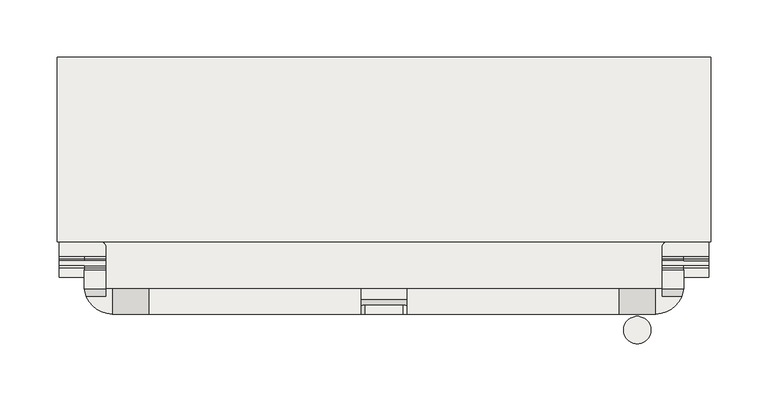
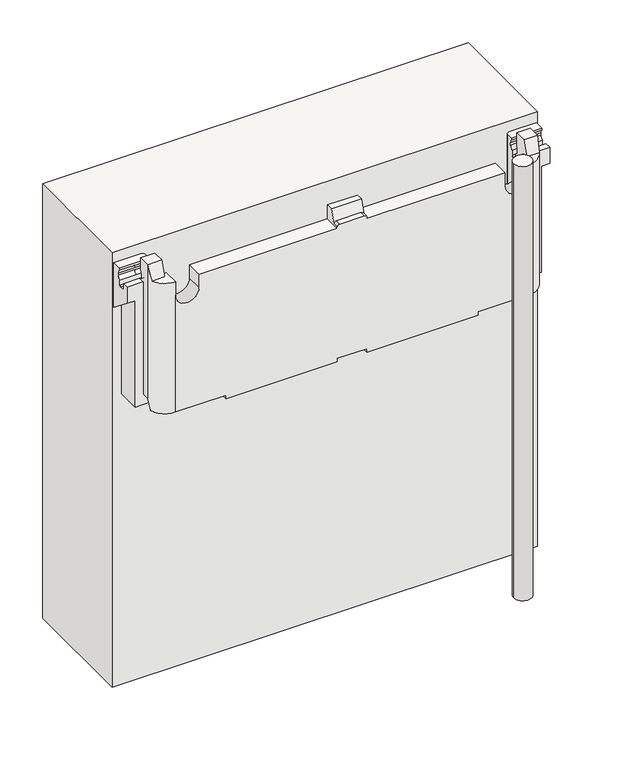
"""IFC4 building model written with IfcOpenShell, lengths in millimetres: covering geometry, panel VP Modulo prova ultima texture : panel VP Modulo prova ultima texture."""

from ifc_helpers import new_model, si_unit, point, frame, frame_2d, origin, origin_with_axes, place, context, project, spatial, polyline, circle_curve, ellipse_curve, trimmed, segment, composite_curve, outline, extrude, source, transform, mapped, element, save
from ifc_brep_helpers import plane_surface, cylinder_surface, revolved_surface, advanced_brep


def covering_7eb55cab(model_context):
    return source(origin(), model_context, "Body", "SolidModel", [
        advanced_brep(
        [(-20.0, 40.503817, 617.5220564), (-20.0, 49.5015434, 617.5220564), (-20.0, 49.5015434, 597.5249996), (-20.0, 27.5015432, 597.5249996), (-20.0, 27.5015432, 599.5249996), (-20.0, 34.5021229, 599.5249996), (20.0, 49.5015434, 617.5220564), (20.0, 40.503817, 617.5220564), (20.0, 34.5021229, 599.5249996), (20.0, 27.5015432, 599.5249996), (20.0, 27.5015432, 597.5249996), (20.0, 49.5015434, 597.5249996), (-17.0, 35.5025688, 602.5249996), (17.0, 35.5025688, 602.5249996), (17.0, 27.5015432, 602.5249996), (-17.0, 27.5015432, 602.5249996), (-262.4808119, 49.5015434, 617.5198754), (-262.4808119, 65.772467, 617.5198754), (-262.4808119, 65.772467, 599.5768312), (-262.4808119, 63.7739273, 594.6813202), (-262.4808119, 63.7739273, 591.6813202), (-262.4808119, 67.7745502, 586.9851203), (-262.4808119, 59.5, 586.9851203), (-262.4808119, 59.5, 427.5207128), (-262.4808119, 49.5015434, 427.5207128), (262.4808119, 67.7745502, 586.9851203), (262.4808119, 63.7739273, 591.6813202), (262.4808119, 63.7739273, 594.6813202), (262.4808119, 65.772467, 599.5768312), (262.4808119, 65.772467, 617.5198754), (262.4808119, 49.5015434, 617.5198754), (262.4808119, 49.5015434, 427.5207128), (262.4808119, 59.5, 427.5207128), (262.4808119, 59.5, 586.9851203), (205.7808119, 27.5015432, 597.5249996), (205.7808119, 49.5015434, 597.5249996), (243.7808119, 42.6167555, 597.5249996), (243.7808119, 49.5015434, 597.5249996), (237.7808119, 49.5015434, 597.5249996), (237.7808119, 27.5015432, 597.5249996), (260.6550436, 42.6167555, 597.5249996), (-237.7808119, 27.5015432, 597.5249996), (-237.7808119, 49.5015434, 597.5249996), (-243.7808119, 49.5015434, 597.5249996), (-243.7808119, 42.6167555, 597.5249996), (-260.6550436, 42.6167555, 597.5249996), (-205.7808119, 49.5015434, 597.5249996), (-205.7808119, 27.5015432, 597.5249996), (-262.4808119, 109.8415131, 434.5213892), (262.4808119, 109.8415131, 434.5213892), (262.4808119, 141.2113001, 462.1618818), (-262.4808119, 141.2113001, 462.1618818), (-262.4808119, 147.3447094, 468.6241094), (262.4808119, 147.3447094, 468.6241094), (262.4808119, 184.4941844, 515.5067645), (-262.4808119, 184.4941844, 515.5067645), (262.4808119, 184.4941844, 542.5056194), (-262.4808119, 184.4941844, 542.5056194), (284.4808119, 184.4914281, 542.5056194), (284.4808119, 202.488872, 542.5056194), (-284.4808119, 202.488872, 542.5056194), (-284.4808119, 184.4914281, 542.5056194), (-284.4808119, 202.488872, 502.7923442), (284.4808119, 202.488872, 502.7923442), (262.4808119, 193.4423608, 461.4138134), (-262.4808119, 193.4423608, 461.4138134), (-284.4808119, 193.4423608, 461.4138134), (284.4808119, 193.4423608, 461.4138134), (262.4808119, 190.281945, 460.2861233), (-262.4808119, 190.281945, 460.2861233), (284.4808119, 190.281945, 460.2861233), (284.4808119, 59.5, 563.9167777), (273.4808119, 59.5, 563.9167777), (273.4808119, 180.2456216, 468.2388324), (262.4808119, 180.2456216, 468.2388324), (-262.4808119, 180.2456216, 468.2388324), (-273.4808119, 180.2456216, 468.2388324), (-273.4808119, 59.5, 563.9167777), (-284.4808119, 59.5, 563.9167777), (-284.4808119, 190.281945, 460.2861233), (262.4808119, 174.5899002, 467.5837505), (-262.4808119, 174.5899002, 467.5837505), (273.4808119, 174.5899002, 467.5837505), (273.4808119, 160.5878776, 449.9132262), (-273.4808119, 160.5878776, 449.9132262), (-273.4808119, 174.5899002, 467.5837505), (-273.4808119, 118.1414154, 412.5128727), (273.4808119, 118.1414154, 412.5128727), (237.7808119, 118.1414154, 412.5128727), (197.7808119, 118.1414154, 412.5128727), (20.0, 118.1414154, 412.5128727), (-20.0, 118.1414154, 412.5128727), (-197.7808119, 118.1414154, 412.5128727), (-237.7808119, 118.1414154, 412.5128727), (-273.4808119, 59.5, 412.5250013), (-237.7808119, 78.1414154, 412.5250013), (-197.7808119, 78.1414154, 412.5250013), (-20.0, 78.1414154, 412.5250013), (20.0, 78.1414154, 412.5250013), (197.7808119, 78.1414154, 412.5250013), (237.7808119, 78.1414154, 412.5250013), (273.4808119, 59.5, 412.5250013), (252.4808119, 59.5, 412.5250013), (252.4808119, 44.6291413, 412.5250013), (261.4118126, 44.6291413, 412.5250013), (237.7808119, 27.5015432, 412.5250013), (169.4808119, 27.5015432, 412.5250013), (169.4808119, 67.5015432, 412.5250013), (20.0, 67.5015432, 412.5250013), (20.0, 27.5015432, 412.5250013), (-20.0, 27.5015432, 412.5250013), (-20.0, 67.5015432, 412.5250013), (-169.4808119, 67.5015432, 412.5250013), (-169.4808119, 27.5015432, 412.5250013), (-237.7808119, 27.5015432, 412.5250013), (-261.4118126, 44.6291413, 412.5250013), (-252.4808119, 44.6291413, 412.5250013), (-252.4808119, 59.5, 412.5250013), (-205.7808119, 27.5015432, 578.501469), (-237.7808119, 27.5015432, 578.501469), (-169.4808119, 27.5015432, 407.5154158), (-20.0, 27.5015432, 407.5154158), (20.0, 27.5015432, 407.5154158), (169.4808119, 27.5015432, 407.5154158), (237.7808119, 27.5015432, 578.501469), (205.7808119, 27.5015432, 578.501469), (-237.7808119, 49.5015434, 578.501469), (-205.7808119, 49.5015434, 578.501469), (205.7808119, 49.5015434, 578.501469), (237.7808119, 49.5015434, 578.501469), (243.7808119, 49.5015434, 434.5213892), (-243.7808119, 49.5015434, 434.5213892), (-262.4808119, 101.3665857, 434.5213892), (-251.8742102, 90.7599839, 434.5213892), (-248.1742102, 90.7599839, 434.5213892), (-243.7808119, 86.3665857, 434.5213892), (243.7808119, 86.3665857, 434.5213892), (248.1742102, 90.7599839, 434.5213892), (251.8742102, 90.7599839, 434.5213892), (262.4808119, 101.3665857, 434.5213892), (-284.4808119, 59.5, 586.9851203), (-284.4808119, 67.7745502, 586.9851203), (-284.4808119, 67.7745502, 579.9852856), (-284.4808119, 69.7745502, 577.9852856), (-284.4808119, 74.0001297, 577.9852856), (-284.4808119, 76.0001297, 579.9852856), (-284.4808119, 76.0001297, 586.9851203), (-284.4808119, 80.0007527, 591.6813202), (-284.4808119, 80.0007527, 594.6813202), (-284.4808119, 78.002213, 599.5768312), (-284.4808119, 78.002213, 602.5285461), (-284.4808119, 115.166168, 602.5285461), (-284.4808119, 118.166168, 599.5285461), (-284.4808119, 118.166168, 583.2479937), (-284.4808119, 119.6447617, 580.6623946), (-262.4808119, 119.6447617, 580.6623946), (-262.4808119, 118.166168, 583.2479937), (-262.4808119, 118.166168, 599.5285461), (-262.4808119, 115.166168, 602.5285461), (-262.4808119, 101.3665857, 602.5285461), (-252.4808119, 59.5, 427.5207128), (-243.7808119, 67.7745502, 586.9851203), (-243.7808119, 67.7745502, 579.9852856), (-262.4808119, 67.7745502, 579.9852856), (-262.4808119, 69.7745502, 577.9852856), (-243.7808119, 69.7745502, 577.9852856), (-243.7808119, 74.0001297, 577.9852856), (-262.4808119, 74.0001297, 577.9852856), (-262.4808119, 76.0001297, 579.9852856), (-243.7808119, 76.0001297, 579.9852856), (-243.7808119, 76.0001297, 586.9851203), (-262.4808119, 76.0001297, 586.9851203), (-262.4808119, 80.0007527, 591.6813202), (-243.7808119, 80.0007527, 591.6813202), (-243.7808119, 80.0007527, 594.6813202), (-262.4808119, 80.0007527, 594.6813202), (-262.4808119, 78.002213, 599.5768312), (-243.7808119, 78.002213, 599.5768312), (-243.7808119, 78.002213, 602.5285461), (-243.7808119, 86.3665857, 602.5285461), (-248.1742102, 90.7599839, 602.5285461), (-251.8742102, 90.7599839, 602.5285461), (-243.7808119, 63.7739273, 591.6813202), (-243.7808119, 63.7739273, 594.6813202), (-243.7808119, 65.772467, 599.5768312), (-243.7808119, 65.772467, 617.5198754), (-243.7808119, 49.5015434, 617.5198754), (284.4808119, 119.6447617, 580.6623946), (284.4808119, 118.166168, 583.2479937), (284.4808119, 118.166168, 599.5285461), (284.4808119, 115.166168, 602.5285461), (284.4808119, 78.002213, 602.5285461), (284.4808119, 78.002213, 599.5768312), (284.4808119, 80.0007527, 594.6813202), (284.4808119, 80.0007527, 591.6813202), (284.4808119, 76.0001297, 586.9851203), (284.4808119, 76.0001297, 579.9852856), (284.4808119, 74.0001297, 577.9852856), (284.4808119, 69.7745502, 577.9852856), (284.4808119, 67.7745502, 579.9852856), (284.4808119, 67.7745502, 586.9851203), (284.4808119, 59.5, 586.9851203), (262.4808119, 115.166168, 602.5285461), (262.4808119, 118.166168, 599.5285461), (262.4808119, 118.166168, 583.2479937), (262.4808119, 119.6447617, 580.6623946), (262.4808119, 101.3665857, 602.5285461), (252.4808119, 59.5, 427.5207128), (262.4808119, 69.7745502, 577.9852856), (262.4808119, 67.7745502, 579.9852856), (262.4808119, 76.0001297, 579.9852856), (262.4808119, 74.0001297, 577.9852856), (262.4808119, 80.0007527, 591.6813202), (262.4808119, 76.0001297, 586.9851203), (262.4808119, 78.002213, 599.5768312), (262.4808119, 80.0007527, 594.6813202), (243.7808119, 49.5015434, 617.5198754), (243.7808119, 65.772467, 617.5198754), (243.7808119, 65.772467, 599.5768312), (243.7808119, 63.7739273, 594.6813202), (243.7808119, 63.7739273, 591.6813202), (243.7808119, 67.7745502, 586.9851203), (243.7808119, 67.7745502, 579.9852856), (243.7808119, 69.7745502, 577.9852856), (243.7808119, 74.0001297, 577.9852856), (243.7808119, 76.0001297, 579.9852856), (243.7808119, 76.0001297, 586.9851203), (243.7808119, 80.0007527, 591.6813202), (243.7808119, 80.0007527, 594.6813202), (243.7808119, 78.002213, 599.5768312), (243.7808119, 78.002213, 602.5285461), (243.7808119, 86.3665857, 602.5285461), (251.8742102, 90.7599839, 602.5285461), (248.1742102, 90.7599839, 602.5285461), (237.7808119, 78.1414154, 407.5154158), (197.7808119, 78.1414154, 407.5154158), (197.7808119, 118.1414154, 407.5154158), (237.7808119, 118.1414154, 407.5154158), (-20.0, 78.1414154, 407.5154158), (-20.0, 118.1414154, 407.5154158), (20.0, 118.1414154, 407.5154158), (20.0, 78.1414154, 407.5154158), (-237.7808119, 78.1414154, 407.5154158), (-237.7808119, 118.1414154, 407.5154158), (-197.7808119, 118.1414154, 407.5154158), (-197.7808119, 78.1414154, 407.5154158), (20.0, 67.5015432, 407.5154158), (169.4808119, 67.5015432, 407.5154158), (-20.0, 67.5015432, 407.5154158), (-169.4808119, 67.5015432, 407.5154158), (-252.4808119, 49.5015434, 427.5207128), (252.4808119, 49.5015434, 427.5207128)],
        [
            (0, 1),
            (1, 2),
            (2, 3),
            (3, 4),
            (4, 5),
            (5, 0),
            (6, 7),
            (7, 8),
            (8, 9),
            (9, 10),
            (10, 11),
            (11, 6),
            (0, 7),
            (6, 1),
            (5, 12, ellipse_curve(frame((-17.0, 34.5021229, 599.5249996), z_axis=(0.0, 0.9486409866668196, -0.31635467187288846), x_axis=(0.0, 0.31635467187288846, 0.9486409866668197)), 3.1624187, 3.0)),
            (12, 13),
            (13, 8, ellipse_curve(frame((17.0, 34.5021229, 599.5249996), z_axis=(0.0, 0.9486409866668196, -0.31635467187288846), x_axis=(0.0, 0.31635467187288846, 0.9486409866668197)), 3.1624187, 3.0)),
            (14, 9, circle_curve(frame((17.0, 27.5015432, 599.5249996), z_axis=(0.0, 1.0, 0.0), x_axis=(-1.0, 0.0, 0.0)), 3.0)),
            (13, 14),
            (4, 15, circle_curve(frame((-17.0, 27.5015432, 599.5249996), z_axis=(0.0, 1.0, 0.0), x_axis=(-1.0, 0.0, 0.0)), 3.0)),
            (15, 12),
            (15, 14),
            (16, 17),
            (17, 18),
            (18, 19, circle_curve(frame((-262.4808119, 70.7690822, 594.6813202), z_axis=(1.0, 0.0, 0.0), x_axis=(0.0, -1.0, 0.0)), 6.9951549)),
            (19, 20),
            (20, 21, circle_curve(frame((-262.4808119, 68.5305961, 591.6813202), z_axis=(1.0, 0.0, 0.0), x_axis=(0.0, -1.0, 0.0)), 4.7566689)),
            (21, 22),
            (22, 23),
            (23, 24),
            (24, 16),
            (25, 26, circle_curve(frame((262.4808119, 68.5305961, 591.6813202), z_axis=(-1.0, 0.0, 0.0), x_axis=(0.0, -1.0, 0.0)), 4.7566689)),
            (26, 27),
            (27, 28, circle_curve(frame((262.4808119, 70.7690822, 594.6813202), z_axis=(-1.0, 0.0, 0.0), x_axis=(0.0, -1.0, 0.0)), 6.9951549)),
            (28, 29),
            (29, 30),
            (30, 31),
            (31, 32),
            (32, 33),
            (33, 25),
            (10, 34),
            (34, 35),
            (35, 11),
            (36, 37),
            (37, 38),
            (38, 39),
            (39, 40, circle_curve(frame((237.7808119, 52.367225, 597.5249996), z_axis=(0.0, 0.0, 1.0), x_axis=(1.0, 0.0, 0.0)), 24.8656818)),
            (40, 36),
            (41, 42),
            (42, 43),
            (43, 44),
            (44, 45),
            (45, 41, circle_curve(frame((-237.7808119, 52.367225, 597.5249996), z_axis=(0.0, 0.0, 1.0), x_axis=(-1.0, 0.0, 0.0)), 24.8656818)),
            (46, 47),
            (47, 3),
            (2, 46),
            (48, 49),
            (49, 50),
            (50, 51),
            (51, 48),
            (52, 53),
            (53, 54),
            (54, 55),
            (55, 52),
            (54, 56),
            (56, 57),
            (57, 55),
            (56, 58),
            (58, 59),
            (59, 60),
            (60, 61),
            (61, 57),
            (62, 60),
            (59, 63),
            (63, 62),
            (64, 65),
            (65, 66),
            (66, 62),
            (63, 67),
            (67, 64),
            (64, 68, circle_curve(frame((262.4808119, 191.5102381, 461.8362298), z_axis=(-1.0, 0.0, 0.0), x_axis=(0.0, -1.0, 0.0)), 1.9777598)),
            (68, 69),
            (69, 65, circle_curve(frame((-262.4808119, 191.5102381, 461.8362298), z_axis=(1.0, 0.0, 0.0), x_axis=(0.0, -1.0, 0.0)), 1.9777598)),
            (68, 70),
            (70, 71),
            (71, 72),
            (72, 73),
            (73, 74),
            (74, 75),
            (75, 76),
            (76, 77),
            (77, 78),
            (78, 79),
            (79, 69),
            (74, 80, circle_curve(frame((262.4808119, 177.7453022, 465.0834279), z_axis=(1.0, 0.0, 0.0), x_axis=(0.0, -1.0, 0.0)), 4.0259377)),
            (80, 81),
            (81, 75, circle_curve(frame((-262.4808119, 177.7453022, 465.0834279), z_axis=(-1.0, 0.0, 0.0), x_axis=(0.0, -1.0, 0.0)), 4.0259377)),
            (80, 82),
            (82, 83),
            (83, 84),
            (84, 85),
            (85, 81),
            (86, 84),
            (83, 87),
            (87, 88),
            (88, 89),
            (89, 90),
            (90, 91),
            (91, 92),
            (92, 93),
            (93, 86),
            (50, 53, circle_curve(frame((262.4808119, 108.1562691, 499.6767445), z_axis=(1.0, 0.0, 0.0), x_axis=(0.0, -1.0, 0.0)), 50.0)),
            (52, 51, circle_curve(frame((-262.4808119, 108.1562691, 499.6767445), z_axis=(-1.0, 0.0, 0.0), x_axis=(0.0, -1.0, 0.0)), 50.0)),
            (94, 86),
            (93, 95),
            (95, 96),
            (96, 92),
            (91, 97),
            (97, 98),
            (98, 90),
            (89, 99),
            (99, 100),
            (100, 88),
            (87, 101),
            (101, 102),
            (102, 103),
            (103, 104),
            (104, 105, circle_curve(frame((237.7808119, 52.367225, 412.5250013), z_axis=(0.0, 0.0, -1.0), x_axis=(1.0, 0.0, 0.0)), 24.8656818)),
            (105, 106),
            (106, 107),
            (107, 108),
            (108, 109),
            (109, 110),
            (110, 111),
            (111, 112),
            (112, 113),
            (113, 114),
            (114, 115, circle_curve(frame((-237.7808119, 52.367225, 412.5250013), z_axis=(0.0, 0.0, -1.0), x_axis=(-1.0, 0.0, 0.0)), 24.8656818)),
            (115, 116),
            (116, 117),
            (117, 94),
            (47, 118),
            (118, 119, circle_curve(frame((-221.7808119, 27.5015432, 578.501469), z_axis=(0.0, 1.0, 0.0), x_axis=(-1.0, 0.0, 0.0)), 16.0)),
            (119, 114),
            (113, 120),
            (120, 121),
            (121, 110),
            (109, 122),
            (122, 123),
            (123, 106),
            (105, 124),
            (124, 125, circle_curve(frame((221.7808119, 27.5015432, 578.501469), z_axis=(0.0, 1.0, 0.0), x_axis=(1.0, 0.0, 0.0)), 16.0)),
            (125, 34),
            (42, 126),
            (126, 127, circle_curve(frame((-221.7808119, 49.5015434, 578.501469), z_axis=(0.0, -1.0, 0.0), x_axis=(-1.0, 0.0, 0.0)), 16.0)),
            (127, 46),
            (35, 128),
            (128, 129, circle_curve(frame((221.7808119, 49.5015434, 578.501469), z_axis=(0.0, -1.0, 0.0), x_axis=(1.0, 0.0, 0.0)), 16.0)),
            (129, 38),
            (37, 130),
            (130, 131),
            (131, 43),
            (48, 132),
            (132, 133, circle_curve(frame((-251.8742102, 101.3665857, 434.5213892), z_axis=(0.0, 0.0, 1.0), x_axis=(-1.0, 0.0, 0.0)), 10.6066017)),
            (133, 134),
            (134, 135, circle_curve(frame((-248.1742102, 86.3665857, 434.5213892), z_axis=(0.0, 0.0, -1.0), x_axis=(-1.0, 0.0, 0.0)), 4.3933983)),
            (135, 131),
            (130, 136),
            (136, 137, circle_curve(frame((248.1742102, 86.3665857, 434.5213892), z_axis=(0.0, 0.0, -1.0), x_axis=(1.0, 0.0, 0.0)), 4.3933983)),
            (137, 138),
            (138, 139, circle_curve(frame((251.8742102, 101.3665857, 434.5213892), z_axis=(0.0, 0.0, 1.0), x_axis=(1.0, 0.0, 0.0)), 10.6066017)),
            (139, 49),
            (66, 79, circle_curve(frame((-284.4808119, 191.5102381, 461.8362298), z_axis=(-1.0, 0.0, 0.0), x_axis=(0.0, -1.0, 0.0)), 1.9777598)),
            (78, 140),
            (140, 141),
            (141, 142),
            (142, 143, circle_curve(frame((-284.4808119, 69.7745502, 579.9852856), z_axis=(1.0, 0.0, 0.0), x_axis=(0.0, -1.0, 0.0)), 2.0)),
            (143, 144),
            (144, 145, circle_curve(frame((-284.4808119, 74.0001297, 579.9852856), z_axis=(1.0, 0.0, 0.0), x_axis=(0.0, -1.0, 0.0)), 2.0)),
            (145, 146),
            (146, 147, circle_curve(frame((-284.4808119, 75.2440838, 591.6813202), z_axis=(1.0, 0.0, 0.0), x_axis=(0.0, -1.0, 0.0)), 4.7566689)),
            (147, 148),
            (148, 149, circle_curve(frame((-284.4808119, 73.0055977, 594.6813202), z_axis=(1.0, 0.0, 0.0), x_axis=(0.0, -1.0, 0.0)), 6.9951549)),
            (149, 150),
            (150, 151),
            (151, 152, circle_curve(frame((-284.4808119, 115.166168, 599.5285461), z_axis=(-1.0, 0.0, 0.0), x_axis=(0.0, -1.0, 0.0)), 3.0)),
            (152, 153),
            (153, 154, circle_curve(frame((-284.4808119, 121.166168, 583.2479937), z_axis=(1.0, 0.0, 0.0), x_axis=(0.0, -1.0, 0.0)), 3.0)),
            (154, 61),
            (57, 155),
            (155, 156, circle_curve(frame((-262.4808119, 121.166168, 583.2479937), z_axis=(-1.0, 0.0, 0.0), x_axis=(0.0, -1.0, 0.0)), 3.0)),
            (156, 157),
            (157, 158, circle_curve(frame((-262.4808119, 115.166168, 599.5285461), z_axis=(1.0, 0.0, 0.0), x_axis=(0.0, -1.0, 0.0)), 3.0)),
            (158, 159),
            (159, 132),
            (77, 94),
            (117, 160),
            (160, 23),
            (22, 140),
            (141, 21),
            (21, 161),
            (161, 162),
            (162, 163),
            (163, 142),
            (163, 164, circle_curve(frame((-262.4808119, 69.7745502, 579.9852856), z_axis=(1.0, 0.0, 0.0), x_axis=(0.0, -1.0, 0.0)), 2.0)),
            (164, 143),
            (164, 165),
            (165, 166),
            (166, 167),
            (167, 144),
            (167, 168, circle_curve(frame((-262.4808119, 74.0001297, 579.9852856), z_axis=(1.0, 0.0, 0.0), x_axis=(0.0, -1.0, 0.0)), 2.0)),
            (168, 145),
            (168, 169),
            (169, 170),
            (170, 171),
            (171, 146),
            (171, 172, circle_curve(frame((-262.4808119, 75.2440838, 591.6813202), z_axis=(1.0, 0.0, 0.0), x_axis=(0.0, -1.0, 0.0)), 4.7566689)),
            (172, 147),
            (172, 173),
            (173, 174),
            (174, 175),
            (175, 148),
            (175, 176, circle_curve(frame((-262.4808119, 73.0055977, 594.6813202), z_axis=(1.0, 0.0, 0.0), x_axis=(0.0, -1.0, 0.0)), 6.9951549)),
            (176, 149),
            (176, 177),
            (177, 178),
            (178, 150),
            (178, 179),
            (179, 180, circle_curve(frame((-248.1742102, 86.3665857, 602.5285461), z_axis=(0.0, 0.0, 1.0), x_axis=(-1.0, 0.0, 0.0)), 4.3933983)),
            (180, 181),
            (181, 159, circle_curve(frame((-251.8742102, 101.3665857, 602.5285461), z_axis=(0.0, 0.0, -1.0), x_axis=(-1.0, 0.0, 0.0)), 10.6066017)),
            (158, 151),
            (157, 152),
            (156, 153),
            (155, 154),
            (76, 85, circle_curve(frame((-273.4808119, 177.7453022, 465.0834279), z_axis=(1.0, 0.0, 0.0), x_axis=(0.0, -1.0, 0.0)), 4.0259377)),
            (45, 16, ellipse_curve(frame((-237.7808119, 52.367225, 625.842419), z_axis=(0.0, 0.9455185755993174, -0.32556815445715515), x_axis=(0.0, -0.3255681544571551, -0.9455185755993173)), 76.3762716, 24.8656818)),
            (24, 115, ellipse_curve(frame((-237.7808119, 52.367225, 436.3403739), z_axis=(0.0, -0.9510565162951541, 0.3090169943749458), x_axis=(0.0, -0.30901699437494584, -0.9510565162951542)), 80.4670366, 24.8656818)),
            (119, 41),
            (177, 174, circle_curve(frame((-243.7808119, 73.0055977, 594.6813202), z_axis=(-1.0, 0.0, 0.0), x_axis=(0.0, -1.0, 0.0)), 6.9951549)),
            (173, 170, circle_curve(frame((-243.7808119, 75.2440838, 591.6813202), z_axis=(-1.0, 0.0, 0.0), x_axis=(0.0, -1.0, 0.0)), 4.7566689)),
            (169, 166, circle_curve(frame((-243.7808119, 74.0001297, 579.9852856), z_axis=(-1.0, 0.0, 0.0), x_axis=(0.0, -1.0, 0.0)), 2.0)),
            (165, 162, circle_curve(frame((-243.7808119, 69.7745502, 579.9852856), z_axis=(-1.0, 0.0, 0.0), x_axis=(0.0, -1.0, 0.0)), 2.0)),
            (161, 182, circle_curve(frame((-243.7808119, 68.5305961, 591.6813202), z_axis=(-1.0, 0.0, 0.0), x_axis=(0.0, -1.0, 0.0)), 4.7566689)),
            (182, 183),
            (183, 184, circle_curve(frame((-243.7808119, 70.7690822, 594.6813202), z_axis=(-1.0, 0.0, 0.0), x_axis=(0.0, -1.0, 0.0)), 6.9951549)),
            (184, 185),
            (185, 186),
            (186, 44),
            (135, 179),
            (16, 186),
            (185, 17),
            (184, 18),
            (183, 19),
            (182, 20),
            (134, 180),
            (133, 181),
            (39, 124),
            (104, 31, ellipse_curve(frame((237.7808119, 52.367225, 436.3403739), z_axis=(0.0, -0.9510565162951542, 0.3090169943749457), x_axis=(0.0, -0.3090169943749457, -0.9510565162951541)), 80.4670366, 24.8656818)),
            (30, 40, ellipse_curve(frame((237.7808119, 52.367225, 625.842419), z_axis=(0.0, 0.9455185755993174, -0.3255681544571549), x_axis=(0.0, -0.3255681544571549, -0.9455185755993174)), 76.3762716, 24.8656818)),
            (58, 187),
            (187, 188, circle_curve(frame((284.4808119, 121.166168, 583.2479937), z_axis=(-1.0, 0.0, 0.0), x_axis=(0.0, -1.0, 0.0)), 3.0)),
            (188, 189),
            (189, 190, circle_curve(frame((284.4808119, 115.166168, 599.5285461), z_axis=(1.0, 0.0, 0.0), x_axis=(0.0, -1.0, 0.0)), 3.0)),
            (190, 191),
            (191, 192),
            (192, 193, circle_curve(frame((284.4808119, 73.0055977, 594.6813202), z_axis=(-1.0, 0.0, 0.0), x_axis=(0.0, -1.0, 0.0)), 6.9951549)),
            (193, 194),
            (194, 195, circle_curve(frame((284.4808119, 75.2440838, 591.6813202), z_axis=(-1.0, 0.0, 0.0), x_axis=(0.0, -1.0, 0.0)), 4.7566689)),
            (195, 196),
            (196, 197, circle_curve(frame((284.4808119, 74.0001297, 579.9852856), z_axis=(-1.0, 0.0, 0.0), x_axis=(0.0, -1.0, 0.0)), 2.0)),
            (197, 198),
            (198, 199, circle_curve(frame((284.4808119, 69.7745502, 579.9852856), z_axis=(-1.0, 0.0, 0.0), x_axis=(0.0, -1.0, 0.0)), 2.0)),
            (199, 200),
            (200, 201),
            (201, 71),
            (70, 67, circle_curve(frame((284.4808119, 191.5102381, 461.8362298), z_axis=(1.0, 0.0, 0.0), x_axis=(0.0, -1.0, 0.0)), 1.9777598)),
            (202, 203, circle_curve(frame((262.4808119, 115.166168, 599.5285461), z_axis=(-1.0, 0.0, 0.0), x_axis=(0.0, -1.0, 0.0)), 3.0)),
            (203, 204),
            (204, 205, circle_curve(frame((262.4808119, 121.166168, 583.2479937), z_axis=(1.0, 0.0, 0.0), x_axis=(0.0, -1.0, 0.0)), 3.0)),
            (205, 56),
            (139, 206),
            (206, 202),
            (201, 33),
            (32, 207),
            (207, 102),
            (101, 72),
            (198, 208),
            (208, 209, circle_curve(frame((262.4808119, 69.7745502, 579.9852856), z_axis=(-1.0, 0.0, 0.0), x_axis=(0.0, -1.0, 0.0)), 2.0)),
            (209, 199),
            (196, 210),
            (210, 211, circle_curve(frame((262.4808119, 74.0001297, 579.9852856), z_axis=(-1.0, 0.0, 0.0), x_axis=(0.0, -1.0, 0.0)), 2.0)),
            (211, 197),
            (194, 212),
            (212, 213, circle_curve(frame((262.4808119, 75.2440838, 591.6813202), z_axis=(-1.0, 0.0, 0.0), x_axis=(0.0, -1.0, 0.0)), 4.7566689)),
            (213, 195),
            (192, 214),
            (214, 215, circle_curve(frame((262.4808119, 73.0055977, 594.6813202), z_axis=(-1.0, 0.0, 0.0), x_axis=(0.0, -1.0, 0.0)), 6.9951549)),
            (215, 193),
            (189, 203),
            (202, 190),
            (188, 204),
            (187, 205),
            (200, 25),
            (36, 216),
            (216, 217),
            (217, 218),
            (218, 219, circle_curve(frame((243.7808119, 70.7690822, 594.6813202), z_axis=(1.0, 0.0, 0.0), x_axis=(0.0, -1.0, 0.0)), 6.9951549)),
            (219, 220),
            (220, 221, circle_curve(frame((243.7808119, 68.5305961, 591.6813202), z_axis=(1.0, 0.0, 0.0), x_axis=(0.0, -1.0, 0.0)), 4.7566689)),
            (221, 222),
            (222, 223, circle_curve(frame((243.7808119, 69.7745502, 579.9852856), z_axis=(1.0, 0.0, 0.0), x_axis=(0.0, -1.0, 0.0)), 2.0)),
            (223, 224),
            (224, 225, circle_curve(frame((243.7808119, 74.0001297, 579.9852856), z_axis=(1.0, 0.0, 0.0), x_axis=(0.0, -1.0, 0.0)), 2.0)),
            (225, 226),
            (226, 227, circle_curve(frame((243.7808119, 75.2440838, 591.6813202), z_axis=(1.0, 0.0, 0.0), x_axis=(0.0, -1.0, 0.0)), 4.7566689)),
            (227, 228),
            (228, 229, circle_curve(frame((243.7808119, 73.0055977, 594.6813202), z_axis=(1.0, 0.0, 0.0), x_axis=(0.0, -1.0, 0.0)), 6.9951549)),
            (229, 230),
            (230, 231),
            (231, 136),
            (221, 25),
            (209, 222),
            (208, 223),
            (29, 217),
            (216, 30),
            (28, 218),
            (27, 219),
            (26, 220),
            (211, 224),
            (210, 225),
            (213, 226),
            (212, 227),
            (215, 228),
            (214, 229),
            (191, 230),
            (206, 232, circle_curve(frame((251.8742102, 101.3665857, 602.5285461), z_axis=(0.0, 0.0, -1.0), x_axis=(1.0, 0.0, 0.0)), 10.6066017)),
            (232, 233),
            (233, 231, circle_curve(frame((248.1742102, 86.3665857, 602.5285461), z_axis=(0.0, 0.0, 1.0), x_axis=(1.0, 0.0, 0.0)), 4.3933983)),
            (233, 137),
            (232, 138),
            (119, 126),
            (127, 118),
            (129, 124),
            (125, 128),
            (82, 73, circle_curve(frame((273.4808119, 177.7453022, 465.0834279), z_axis=(-1.0, 0.0, 0.0), x_axis=(0.0, -1.0, 0.0)), 4.0259377)),
            (234, 235),
            (235, 236),
            (236, 237),
            (237, 234),
            (234, 100),
            (99, 235),
            (89, 236),
            (88, 237),
            (238, 239),
            (239, 240),
            (240, 241),
            (241, 238),
            (241, 98),
            (97, 238),
            (240, 90),
            (239, 91),
            (242, 243),
            (243, 244),
            (244, 245),
            (245, 242),
            (245, 96),
            (95, 242),
            (244, 92),
            (243, 93),
            (246, 247),
            (247, 123),
            (122, 246),
            (248, 121),
            (120, 249),
            (249, 248),
            (108, 246),
            (247, 107),
            (249, 112),
            (111, 248),
            (250, 160),
            (116, 250),
            (250, 24),
            (251, 103),
            (207, 251),
            (31, 251),
        ],
        [
            plane_surface(frame((-20.0, 49.5042184, 617.5220564), z_axis=(-1.0, 0.0, 0.0), x_axis=(0.0, 1.0, 0.0))),
            plane_surface(frame((20.0, 49.5042184, 617.5220564), z_axis=(1.0, 0.0, 0.0), x_axis=(0.0, -1.0, 0.0))),
            plane_surface(frame((-20.0, 40.503817, 617.5220564), z_axis=(0.0, 0.0, 1.0), x_axis=(1.0, 0.0, 0.0))),
            plane_surface(frame((-20.0, 33.835159, 597.5249996), z_axis=(0.0, -0.9486409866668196, 0.31635467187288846), x_axis=(1.0, 0.0, 0.0))),
            cylinder_surface(frame((17.0, 27.5015432, 599.5249996), z_axis=(0.0, 1.0, 0.0), x_axis=(-1.0, 0.0, 0.0)), 3.0),
            cylinder_surface(frame((-17.0, 27.5015432, 599.5249996), z_axis=(0.0, 1.0, 0.0), x_axis=(-1.0, 0.0, 0.0)), 3.0),
            plane_surface(frame((-17.0, 49.501543, 602.5249996), z_axis=(0.0, 0.0, 1.0), x_axis=(0.0, -1.0, 0.0))),
            plane_surface(frame((-262.4808119, 118.1414154, 412.5128727), z_axis=(-1.0, 0.0, 0.0), x_axis=(0.0, -0.7502972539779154, -0.6611006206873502))),
            plane_surface(frame((262.4808119, 118.1414154, 412.5128727), z_axis=(1.0, 0.0, 0.0), x_axis=(0.0, 0.7502972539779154, 0.6611006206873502))),
            plane_surface(frame((-262.4808119, 27.5015432, 597.5249996), z_axis=(0.0, 0.0, 1.0), x_axis=(1.0, 0.0, 0.0))),
            plane_surface(frame((-262.4808119, 109.8415131, 434.5213892), z_axis=(0.0, -0.6611006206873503, 0.7502972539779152), x_axis=(1.0, 0.0, 0.0))),
            plane_surface(frame((-262.4808119, 147.3447094, 468.6241094), z_axis=(0.0, -0.7837688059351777, 0.6210527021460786), x_axis=(1.0, 0.0, 0.0))),
            plane_surface(frame((-262.4808119, 184.4941844, 515.5067645), z_axis=(0.0, -1.0, 0.0), x_axis=(1.0, 0.0, 0.0))),
            plane_surface(frame((-262.4808119, 184.4941844, 542.5056194), z_axis=(0.0, 0.0, 1.0), x_axis=(1.0, 0.0, 0.0))),
            plane_surface(frame((-262.4808119, 202.488872, 542.5056194), z_axis=(0.0, 1.0, 0.0), x_axis=(1.0, 0.0, 0.0))),
            plane_surface(frame((-262.4808119, 202.488872, 502.7923442), z_axis=(0.0, 0.9769248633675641, -0.21358326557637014), x_axis=(1.0, 0.0, 0.0))),
            cylinder_surface(frame((262.4808119, 191.5102381, 461.8362298), z_axis=(-1.0, 0.0, 0.0), x_axis=(0.0, -1.0, 0.0)), 1.9777598),
            plane_surface(frame((-262.4808119, 190.281945, 460.2861233), z_axis=(0.0, -0.6210526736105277, -0.7837688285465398), x_axis=(1.0, 0.0, 0.0))),
            revolved_surface(polyline([(262.4808119, 173.71936449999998, 465.0834279), (-262.4808119, 173.71936449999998, 465.0834279)]), (262.4808119, 177.7453022, 465.0834279), (1.0, 0.0, 0.0)),
            plane_surface(frame((-262.4808119, 174.5899002, 467.5837505), z_axis=(0.0, 0.7837682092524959, -0.6210534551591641), x_axis=(1.0, 0.0, 0.0))),
            plane_surface(frame((-262.4808119, 160.5878776, 449.9132262), z_axis=(0.0, 0.6611006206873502, -0.7502972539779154), x_axis=(1.0, 0.0, 0.0))),
            revolved_surface(polyline([(262.4808119, 58.1562691, 499.6767445), (-262.4808119, 58.1562691, 499.6767445)]), (262.4808119, 108.1562691, 499.6767445), (1.0, 0.0, 0.0)),
            plane_surface(frame((-262.4808119, 118.1551803, 412.5250013), z_axis=(0.0, 0.0, -1.0), x_axis=(1.0, 0.0, 0.0))),
            plane_surface(frame((-262.4808119, 27.5015432, 412.5250013), z_axis=(0.0, -1.0, 0.0), x_axis=(1.0, 0.0, 0.0))),
            plane_surface(frame((-262.4808119, 49.5015434, 597.5249996), z_axis=(0.0, 1.0, 0.0), x_axis=(1.0, 0.0, 0.0))),
            plane_surface(frame((-262.4808119, 49.5015434, 434.5213892), z_axis=(0.0, 0.0, 1.0), x_axis=(1.0, 0.0, 0.0))),
            plane_surface(frame((-284.4808119, 202.488872, 502.7923442), z_axis=(-1.0000000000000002, 0.0, 0.0), x_axis=(0.0, -0.21358326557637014, -0.9769248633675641))),
            plane_surface(frame((-262.4808119, 202.488872, 502.7923442), z_axis=(1.0000000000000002, 0.0, 0.0), x_axis=(0.0, 0.21358326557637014, 0.9769248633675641))),
            cylinder_surface(frame((-262.4808119, 191.5102381, 461.8362298), z_axis=(-1.0, 0.0, 0.0), x_axis=(0.0, -1.0, 0.0)), 1.9777598),
            plane_surface(frame((-284.4808119, 59.5, 563.9167777), z_axis=(0.0, -1.0, 0.0), x_axis=(1.0, 0.0, 0.0))),
            plane_surface(frame((-284.4808119, 67.7745502, 586.9851203), z_axis=(0.0, 1.0, 0.0), x_axis=(1.0, 0.0, 0.0))),
            revolved_surface(polyline([(-262.4808119, 67.7745502, 579.9852856), (-284.4808119, 67.7745502, 579.9852856)]), (-262.4808119, 69.7745502, 579.9852856), (1.0, 0.0, 0.0)),
            plane_surface(frame((-284.4808119, 69.7745502, 577.9852856), z_axis=(0.0, 0.0, 1.0), x_axis=(1.0, 0.0, 0.0))),
            revolved_surface(polyline([(-262.4808119, 72.0001297, 579.9852856), (-284.4808119, 72.0001297, 579.9852856)]), (-262.4808119, 74.0001297, 579.9852856), (1.0, 0.0, 0.0)),
            plane_surface(frame((-284.4808119, 76.0001297, 579.9852856), z_axis=(0.0, -1.0, 0.0), x_axis=(1.0, 0.0, 0.0))),
            revolved_surface(polyline([(-262.4808119, 70.4874149, 591.6813202), (-284.4808119, 70.4874149, 591.6813202)]), (-262.4808119, 75.2440838, 591.6813202), (1.0, 0.0, 0.0)),
            plane_surface(frame((-284.4808119, 80.0007527, 591.6813202), z_axis=(0.0, -1.0, 0.0), x_axis=(1.0, 0.0, 0.0))),
            revolved_surface(polyline([(-262.4808119, 66.01044279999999, 594.6813202), (-284.4808119, 66.01044279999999, 594.6813202)]), (-262.4808119, 73.0055977, 594.6813202), (1.0, 0.0, 0.0)),
            plane_surface(frame((-284.4808119, 78.002213, 599.5768312), z_axis=(0.0, -1.0, 0.0), x_axis=(1.0, 0.0, 0.0))),
            plane_surface(frame((-284.4808119, 78.002213, 602.5285461), z_axis=(0.0, 0.0, 1.0), x_axis=(1.0, 0.0, 0.0))),
            cylinder_surface(frame((-262.4808119, 115.166168, 599.5285461), z_axis=(-1.0, 0.0, 0.0), x_axis=(0.0, -1.0, 0.0)), 3.0),
            plane_surface(frame((-284.4808119, 118.166168, 599.5285461), z_axis=(0.0, 1.0, 0.0), x_axis=(1.0, 0.0, 0.0))),
            revolved_surface(polyline([(-262.4808119, 118.166168, 583.2479937), (-284.4808119, 118.166168, 583.2479937)]), (-262.4808119, 121.166168, 583.2479937), (1.0, 0.0, 0.0)),
            plane_surface(frame((-284.4808119, 119.6447617, 580.6623946), z_axis=(0.0, 0.5071354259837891, 0.8618663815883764), x_axis=(1.0, 0.0, 0.0))),
            plane_surface(frame((-284.4808119, 59.5, 586.9851203), z_axis=(0.0, 0.0, 1.0), x_axis=(1.0, 0.0, 0.0))),
            plane_surface(frame((-273.4808119, 174.5899002, 467.5837505), z_axis=(-1.0, 0.0, 0.0), x_axis=(0.0, -0.6210534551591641, -0.7837682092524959))),
            revolved_surface(polyline([(-262.4808119, 173.71936449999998, 465.0834279), (-273.4808119, 173.71936449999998, 465.0834279)]), (-262.4808119, 177.7453022, 465.0834279), (1.0, 0.0, 0.0)),
            cylinder_surface(frame((-237.7808119, 52.367225, 407.5154158), z_axis=(0.0, 0.0, -1.0), x_axis=(-1.0, 0.0, 0.0)), 24.8656818),
            plane_surface(frame((-243.7808119, 33.2976457, 597.5249996), z_axis=(1.0, 0.0, 0.0), x_axis=(0.0, 1.0, 0.0))),
            revolved_surface(polyline([(-243.7808119, 67.7745502, 579.9852856), (-262.4808119, 67.7745502, 579.9852856)]), (-243.7808119, 69.7745502, 579.9852856), (1.0, 0.0, 0.0)),
            plane_surface(frame((-262.4808119, 49.5015434, 617.5198754), z_axis=(0.0, 0.0, 1.0), x_axis=(1.0, 0.0, 0.0))),
            plane_surface(frame((-262.4808119, 65.772467, 617.5198754), z_axis=(0.0, 1.0, 0.0), x_axis=(1.0, 0.0, 0.0))),
            revolved_surface(polyline([(-243.7808119, 63.7739273, 594.6813202), (-262.4808119, 63.7739273, 594.6813202)]), (-243.7808119, 70.7690822, 594.6813202), (1.0, 0.0, 0.0)),
            plane_surface(frame((-262.4808119, 63.7739273, 594.6813202), z_axis=(0.0, 1.0, 0.0), x_axis=(1.0, 0.0, 0.0))),
            revolved_surface(polyline([(-243.7808119, 63.773927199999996, 591.6813202), (-262.4808119, 63.773927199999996, 591.6813202)]), (-243.7808119, 68.5305961, 591.6813202), (1.0, 0.0, 0.0)),
            revolved_surface(polyline([(-243.7808119, 72.0001297, 579.9852856), (-262.4808119, 72.0001297, 579.9852856)]), (-243.7808119, 74.0001297, 579.9852856), (1.0, 0.0, 0.0)),
            revolved_surface(polyline([(-243.7808119, 70.4874149, 591.6813202), (-262.4808119, 70.4874149, 591.6813202)]), (-243.7808119, 75.2440838, 591.6813202), (1.0, 0.0, 0.0)),
            revolved_surface(polyline([(-243.7808119, 66.01044279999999, 594.6813202), (-262.4808119, 66.01044279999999, 594.6813202)]), (-243.7808119, 73.0055977, 594.6813202), (1.0, 0.0, 0.0)),
            plane_surface(frame((-262.4808119, 42.6167555, 597.5249996), z_axis=(0.0, -0.9455185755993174, 0.32556815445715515), x_axis=(1.0, 0.0, 0.0))),
            cylinder_surface(frame((-248.1742102, 86.3665857, 434.5213892), z_axis=(0.0, 0.0, 1.0), x_axis=(-1.0, 0.0, 0.0)), 4.3933983),
            plane_surface(frame((-248.1742102, 90.7599839, 602.5285461), z_axis=(0.0, 1.0, 0.0), x_axis=(0.0, 0.0, -1.0))),
            revolved_surface(polyline([(-262.4808119, 101.3665857, 434.5213892), (-262.4808119, 101.3665857, 602.5285461)]), (-251.8742102, 101.3665857, 434.5213892), (0.0, 0.0, -1.0)),
            cylinder_surface(frame((237.7808119, 52.367225, 407.5154158), z_axis=(0.0, 0.0, -1.0), x_axis=(1.0, 0.0, 0.0)), 24.8656818),
            plane_surface(frame((284.4808119, 202.488872, 542.5056194), z_axis=(1.0, 0.0, 0.0), x_axis=(0.0, 0.0, 1.0))),
            plane_surface(frame((262.4808119, 202.488872, 542.5056194), z_axis=(-1.0, 0.0, 0.0), x_axis=(0.0, 0.0, -1.0))),
            cylinder_surface(frame((262.4808119, 191.5102381, 461.8362298), z_axis=(1.0, 0.0, 0.0), x_axis=(0.0, -1.0, 0.0)), 1.9777598),
            plane_surface(frame((284.4808119, 59.5, 586.9851203), z_axis=(0.0, -1.0, 0.0), x_axis=(-1.0, 0.0, 0.0))),
            revolved_surface(polyline([(262.4808119, 67.7745502, 579.9852856), (284.4808119, 67.7745502, 579.9852856)]), (262.4808119, 69.7745502, 579.9852856), (-1.0, 0.0, 0.0)),
            revolved_surface(polyline([(262.4808119, 72.0001297, 579.9852856), (284.4808119, 72.0001297, 579.9852856)]), (262.4808119, 74.0001297, 579.9852856), (-1.0, 0.0, 0.0)),
            revolved_surface(polyline([(262.4808119, 70.4874149, 591.6813202), (284.4808119, 70.4874149, 591.6813202)]), (262.4808119, 75.2440838, 591.6813202), (-1.0, 0.0, 0.0)),
            revolved_surface(polyline([(262.4808119, 66.01044279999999, 594.6813202), (284.4808119, 66.01044279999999, 594.6813202)]), (262.4808119, 73.0055977, 594.6813202), (-1.0, 0.0, 0.0)),
            cylinder_surface(frame((262.4808119, 115.166168, 599.5285461), z_axis=(1.0, 0.0, 0.0), x_axis=(0.0, -1.0, 0.0)), 3.0),
            plane_surface(frame((284.4808119, 118.166168, 583.2479937), z_axis=(0.0, 1.0, 0.0), x_axis=(-1.0, 0.0, 0.0))),
            revolved_surface(polyline([(262.4808119, 118.166168, 583.2479937), (284.4808119, 118.166168, 583.2479937)]), (262.4808119, 121.166168, 583.2479937), (-1.0, 0.0, 0.0)),
            plane_surface(frame((284.4808119, 184.4914281, 542.5056194), z_axis=(0.0, 0.5071354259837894, 0.8618663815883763), x_axis=(-1.0, 0.0, 0.0))),
            plane_surface(frame((284.4808119, 67.7745502, 586.9851203), z_axis=(0.0, 0.0, 1.0), x_axis=(-1.0, 0.0, 0.0))),
            plane_surface(frame((243.7808119, 49.5015434, 292.1821377), z_axis=(-1.0, 0.0, 0.0), x_axis=(0.0, 0.0, 1.0))),
            plane_surface(frame((262.4808119, 67.7745502, 579.9852856), z_axis=(0.0, 1.0, 0.0), x_axis=(-1.0, 0.0, 0.0))),
            revolved_surface(polyline([(243.7808119, 67.7745502, 579.9852856), (262.4808119, 67.7745502, 579.9852856)]), (243.7808119, 69.7745502, 579.9852856), (-1.0, 0.0, 0.0)),
            plane_surface(frame((262.4808119, 65.772467, 617.5198754), z_axis=(0.0, 0.0, 1.0), x_axis=(-1.0, 0.0, 0.0))),
            plane_surface(frame((262.4808119, 65.772467, 599.5768312), z_axis=(0.0, 1.0, 0.0), x_axis=(-1.0, 0.0, 0.0))),
            revolved_surface(polyline([(243.7808119, 63.7739273, 594.6813202), (262.4808119, 63.7739273, 594.6813202)]), (243.7808119, 70.7690822, 594.6813202), (-1.0, 0.0, 0.0)),
            plane_surface(frame((262.4808119, 63.7739273, 591.6813202), z_axis=(0.0, 1.0, 0.0), x_axis=(-1.0, 0.0, 0.0))),
            revolved_surface(polyline([(243.7808119, 63.773927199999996, 591.6813202), (262.4808119, 63.773927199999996, 591.6813202)]), (243.7808119, 68.5305961, 591.6813202), (-1.0, 0.0, 0.0)),
            plane_surface(frame((262.4808119, 74.0001297, 577.9852856), z_axis=(0.0, 0.0, 1.0), x_axis=(-1.0, 0.0, 0.0))),
            revolved_surface(polyline([(243.7808119, 72.0001297, 579.9852856), (262.4808119, 72.0001297, 579.9852856)]), (243.7808119, 74.0001297, 579.9852856), (-1.0, 0.0, 0.0)),
            plane_surface(frame((262.4808119, 76.0001297, 586.9851203), z_axis=(0.0, -1.0, 0.0), x_axis=(-1.0, 0.0, 0.0))),
            revolved_surface(polyline([(243.7808119, 70.4874149, 591.6813202), (262.4808119, 70.4874149, 591.6813202)]), (243.7808119, 75.2440838, 591.6813202), (-1.0, 0.0, 0.0)),
            plane_surface(frame((262.4808119, 80.0007527, 594.6813202), z_axis=(0.0, -1.0, 0.0), x_axis=(-1.0, 0.0, 0.0))),
            revolved_surface(polyline([(243.7808119, 66.01044279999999, 594.6813202), (262.4808119, 66.01044279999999, 594.6813202)]), (243.7808119, 73.0055977, 594.6813202), (-1.0, 0.0, 0.0)),
            plane_surface(frame((262.4808119, 78.002213, 602.5285461), z_axis=(0.0, -1.0, 0.0), x_axis=(-1.0, 0.0, 0.0))),
            plane_surface(frame((262.4808119, 86.3665857, 602.5285461), z_axis=(0.0, 0.0, 1.0), x_axis=(-1.0, 0.0, 0.0))),
            plane_surface(frame((262.4808119, 49.5015434, 617.5198754), z_axis=(0.0, -0.9455185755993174, 0.3255681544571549), x_axis=(-1.0, 0.0, 0.0))),
            cylinder_surface(frame((248.1742102, 86.3665857, 434.5213892), z_axis=(0.0, 0.0, 1.0), x_axis=(1.0, 0.0, 0.0)), 4.3933983),
            plane_surface(frame((251.8742102, 90.7599839, 602.5285461), z_axis=(0.0, 1.0, 0.0), x_axis=(0.0, 0.0, -1.0))),
            revolved_surface(polyline([(262.4808119, 101.3665857, 434.5213892), (262.4808119, 101.3665857, 602.5285461)]), (251.8742102, 101.3665857, 434.5213892), (0.0, 0.0, -1.0)),
            plane_surface(frame((-237.7808119, 76.0001297, 578.501469), z_axis=(1.0, 0.0, 0.0), x_axis=(0.0, -1.0, 0.0))),
            plane_surface(frame((-205.7808119, 76.0001297, 609.431679), z_axis=(-1.0, 0.0, 0.0), x_axis=(0.0, -1.0, 0.0))),
            revolved_surface(polyline([(-237.7808119, 49.5015434, 578.501469), (-237.7808119, 27.5015432, 578.501469)]), (-221.7808119, -1.8695967, 578.501469), (0.0, 1.0, 0.0)),
            plane_surface(frame((237.7808119, 76.0001297, 609.431679), z_axis=(-1.0, 0.0, 0.0), x_axis=(0.0, -1.0, 0.0))),
            plane_surface(frame((205.7808119, 76.0001297, 578.501469), z_axis=(1.0, 0.0, 0.0), x_axis=(0.0, -1.0, 0.0))),
            revolved_surface(polyline([(237.7808119, 49.5015434, 578.501469), (237.7808119, 27.5015432, 578.501469)]), (221.7808119, -1.8695967, 578.501469), (0.0, 1.0, 0.0)),
            plane_surface(frame((273.4808119, 173.7193644, 465.0834279), z_axis=(1.0, 0.0, 0.0), x_axis=(0.0, 0.0, 1.0))),
            revolved_surface(polyline([(262.4808119, 173.71936449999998, 465.0834279), (273.4808119, 173.71936449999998, 465.0834279)]), (262.4808119, 177.7453022, 465.0834279), (-1.0, 0.0, 0.0)),
            plane_surface(frame((237.7808119, 78.1414154, 407.5154158), z_axis=(0.0, 0.0, -1.0), x_axis=(0.0, -1.0, 0.0))),
            plane_surface(frame((197.7808119, 78.1414154, 412.5069222), z_axis=(0.0, -1.0, 0.0), x_axis=(0.0, 0.0, -1.0))),
            plane_surface(frame((197.7808119, 118.1414154, 412.5069222), z_axis=(-1.0, 0.0, 0.0), x_axis=(0.0, 0.0, -1.0))),
            plane_surface(frame((237.7808119, 118.1414154, 412.5069222), z_axis=(0.0, 1.0, 0.0), x_axis=(0.0, 0.0, -1.0))),
            plane_surface(frame((237.7808119, 78.1414154, 412.5069222), z_axis=(1.0, 0.0, 0.0), x_axis=(0.0, 0.0, -1.0))),
            plane_surface(frame((20.0, 78.1414154, 407.5154158), z_axis=(0.0, 0.0, -1.0), x_axis=(-1.0, 0.0, 0.0))),
            plane_surface(frame((-20.0, 78.1414154, 412.5069222), z_axis=(0.0, -1.0, 0.0), x_axis=(0.0, 0.0, -1.0))),
            plane_surface(frame((20.0, 78.1414154, 412.5069222), z_axis=(1.0, 0.0, 0.0), x_axis=(0.0, 0.0, -1.0))),
            plane_surface(frame((20.0, 118.1414154, 412.5069222), z_axis=(0.0, 1.0, 0.0), x_axis=(0.0, 0.0, -1.0))),
            plane_surface(frame((-20.0, 118.1414154, 412.5069222), z_axis=(-1.0, 0.0, 0.0), x_axis=(0.0, 0.0, -1.0))),
            plane_surface(frame((-197.7808119, 78.1414154, 407.5154158), z_axis=(0.0, 0.0, -1.0), x_axis=(-1.0, 0.0, 0.0))),
            plane_surface(frame((-237.7808119, 78.1414154, 412.5069222), z_axis=(0.0, -1.0, 0.0), x_axis=(0.0, 0.0, -1.0))),
            plane_surface(frame((-197.7808119, 78.1414154, 412.5069222), z_axis=(1.0, 0.0, 0.0), x_axis=(0.0, 0.0, -1.0))),
            plane_surface(frame((-197.7808119, 118.1414154, 412.5069222), z_axis=(0.0, 1.0, 0.0), x_axis=(0.0, 0.0, -1.0))),
            plane_surface(frame((-237.7808119, 118.1414154, 412.5069222), z_axis=(-1.0, 0.0, 0.0), x_axis=(0.0, 0.0, -1.0))),
            plane_surface(frame((20.0, 27.5015432, 407.5154158), z_axis=(0.0, 0.0, -1.0), x_axis=(0.0, 1.0, 0.0))),
            plane_surface(frame((20.0, 67.5015432, 412.5069222), z_axis=(-1.0, 0.0, 0.0), x_axis=(0.0, 0.0, -1.0))),
            plane_surface(frame((169.4808119, 27.5015432, 412.5069222), z_axis=(1.0, 0.0, 0.0), x_axis=(0.0, 0.0, -1.0))),
            plane_surface(frame((169.4808119, 67.5015432, 412.5069222), z_axis=(0.0, 1.0, 0.0), x_axis=(0.0, 0.0, -1.0))),
            plane_surface(frame((-20.0, 67.5015432, 412.5069222), z_axis=(0.0, 1.0, 0.0), x_axis=(0.0, 0.0, -1.0))),
            plane_surface(frame((-169.4808119, 67.5015432, 412.5069222), z_axis=(-1.0, 0.0, 0.0), x_axis=(0.0, 0.0, -1.0))),
            plane_surface(frame((-20.0, 27.5015432, 412.5069222), z_axis=(1.0, 0.0, 0.0), x_axis=(0.0, 0.0, -1.0))),
            plane_surface(frame((-252.4808119, 59.5, 427.5207128), z_axis=(-1.0, 0.0, 0.0), x_axis=(0.0, -1.0, 0.0))),
            plane_surface(frame((-284.4808119, 49.5015434, 427.5207128), z_axis=(0.0, 0.0, -1.0), x_axis=(1.0, 0.0, 0.0))),
            plane_surface(frame((-284.4808119, 44.6291413, 412.5250013), z_axis=(0.0, 0.9510565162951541, -0.3090169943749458), x_axis=(1.0, 0.0, 0.0))),
            plane_surface(frame((252.4808119, 49.5015434, 427.5207128), z_axis=(1.0000000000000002, 0.0, 0.0), x_axis=(0.0, 0.3090169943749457, 0.9510565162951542))),
            plane_surface(frame((284.4808119, 59.5, 427.5207128), z_axis=(0.0, 0.0, -1.0), x_axis=(-1.0, 0.0, 0.0))),
            plane_surface(frame((284.4808119, 49.5015434, 427.5207128), z_axis=(0.0, 0.9510565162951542, -0.3090169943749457), x_axis=(-1.0, 0.0, 0.0))),
        ],
        [
            (0, [[1, 2, 3, 4, 5, 6]]),
            (1, [[7, 8, 9, 10, 11, 12]]),
            (2, [[-1, 13, -7, 14]]),
            (3, [[-13, -6, 15, 16, 17, -8]]),
            (4, [[18, -9, -17, 19]]),
            (5, [[20, 21, -15, -5]]),
            (6, [[22, -19, -16, -21]]),
            (7, [[23, 24, 25, 26, 27, 28, 29, 30, 31]]),
            (8, [[32, 33, 34, 35, 36, 37, 38, 39, 40]]),
            (9, [[-11, 41, 42, 43]]),
            (9, [[44, 45, 46, 47, 48]]),
            (9, [[49, 50, 51, 52, 53]]),
            (9, [[54, 55, -3, 56]]),
            (10, [[57, 58, 59, 60]]),
            (11, [[61, 62, 63, 64]]),
            (12, [[-63, 65, 66, 67]]),
            (13, [[-66, 68, 69, 70, 71, 72]]),
            (14, [[73, -70, 74, 75]]),
            (15, [[76, 77, 78, -75, 79, 80]]),
            (16, [[-76, 81, 82, 83]]),
            (17, [[-82, 84, 85, 86, 87, 88, 89, 90, 91, 92, 93, 94]]),
            (18, [[-89, 95, 96, 97]]),
            (19, [[-96, 98, 99, 100, 101, 102]]),
            (20, [[103, -100, 104, 105, 106, 107, 108, 109, 110, 111]]),
            (21, [[-59, 112, -61, 113]]),
            (22, [[114, -111, 115, 116, 117, -109, 118, 119, 120, -107, 121, 122, 123, -105, 124, 125, 126, 127, 128, 129, 130, 131, 132, 133, 134, 135, 136, 137, 138, 139, 140, 141]]),
            (23, [[142, 143, 144, -137, 145, 146, 147, -133, 148, 149, 150, -129, 151, 152, 153, -41, -10, -18, -22, -20, -4, -55]]),
            (24, [[154, 155, 156, -56, -2, -14, -12, -43, 157, 158, 159, -45, 160, 161, 162, -50]]),
            (25, [[-57, 163, 164, 165, 166, 167, -161, 168, 169, 170, 171, 172]]),
            (26, [[-78, 173, -93, 174, 175, 176, 177, 178, 179, 180, 181, 182, 183, 184, 185, 186, 187, 188, 189, -71, -73]]),
            (27, [[190, 191, 192, 193, 194, 195, -163, -60, -113, -64, -67]]),
            (28, [[-173, -77, -83, -94]]),
            (29, [[-174, -92, 196, -141, 197, 198, -29, 199]]),
            (30, [[-176, 200, 201, 202, 203, 204]]),
            (31, [[-177, -204, 205, 206]]),
            (32, [[-178, -206, 207, 208, 209, 210]]),
            (33, [[-179, -210, 211, 212]]),
            (34, [[-180, -212, 213, 214, 215, 216]]),
            (35, [[-181, -216, 217, 218]]),
            (36, [[-182, -218, 219, 220, 221, 222]]),
            (37, [[-183, -222, 223, 224]]),
            (38, [[-184, -224, 225, 226, 227]]),
            (39, [[-185, -227, 228, 229, 230, 231, -194, 232]]),
            (40, [[-186, -232, -193, 233]]),
            (41, [[-187, -233, -192, 234]]),
            (42, [[-188, -234, -191, 235]]),
            (43, [[-189, -235, -190, -72]]),
            (44, [[-175, -199, -28, -200]]),
            (45, [[-101, -103, -114, -196, -91, 236]]),
            (46, [[-236, -90, -97, -102]]),
            (47, [[-53, 237, -31, 238, -138, -144, 239]]),
            (48, [[-228, -226, 240, -220, 241, -214, 242, -208, 243, -202, 244, 245, 246, 247, 248, 249, -51, -162, -167, 250]]),
            (49, [[-243, -207, -205, -203]]),
            (50, [[-23, 251, -248, 252]]),
            (51, [[-24, -252, -247, 253]]),
            (52, [[-25, -253, -246, 254]]),
            (53, [[-26, -254, -245, 255]]),
            (54, [[-27, -255, -244, -201]]),
            (55, [[-242, -213, -211, -209]]),
            (56, [[-241, -219, -217, -215]]),
            (57, [[-240, -225, -223, -221]]),
            (58, [[-249, -251, -237, -52]]),
            (59, [[-229, -250, -166, 256]]),
            (60, [[-230, -256, -165, 257]]),
            (61, [[-231, -257, -164, -195]]),
            (62, [[-47, 258, -151, -128, 259, -37, 260]]),
            (63, [[-74, -69, 261, 262, 263, 264, 265, 266, 267, 268, 269, 270, 271, 272, 273, 274, 275, 276, -85, 277, -79]]),
            (64, [[278, 279, 280, 281, -65, -62, -112, -58, -172, 282, 283]]),
            (65, [[-277, -84, -81, -80]]),
            (66, [[-276, 284, -39, 285, 286, -125, 287, -86]]),
            (67, [[-273, 288, 289, 290]]),
            (68, [[-271, 291, 292, 293]]),
            (69, [[-269, 294, 295, 296]]),
            (70, [[-267, 297, 298, 299]]),
            (71, [[-264, 300, -278, 301]]),
            (72, [[-263, 302, -279, -300]]),
            (73, [[-262, 303, -280, -302]]),
            (74, [[-261, -68, -281, -303]]),
            (75, [[-275, 304, -40, -284]]),
            (76, [[305, 306, 307, 308, 309, 310, 311, 312, 313, 314, 315, 316, 317, 318, 319, 320, 321, -168, -160, -44]]),
            (77, [[-311, 322, -304, -274, -290, 323]]),
            (78, [[-312, -323, -289, 324]]),
            (79, [[-36, 325, -306, 326]]),
            (80, [[-35, 327, -307, -325]]),
            (81, [[-34, 328, -308, -327]]),
            (82, [[-33, 329, -309, -328]]),
            (83, [[-32, -322, -310, -329]]),
            (84, [[-313, -324, -288, -272, -293, 330]]),
            (85, [[-314, -330, -292, 331]]),
            (86, [[-315, -331, -291, -270, -296, 332]]),
            (87, [[-316, -332, -295, 333]]),
            (88, [[-317, -333, -294, -268, -299, 334]]),
            (89, [[-318, -334, -298, 335]]),
            (90, [[-319, -335, -297, -266, 336]]),
            (91, [[-320, -336, -265, -301, -283, 337, 338, 339]]),
            (92, [[-305, -48, -260, -326]]),
            (93, [[-339, 340, -169, -321]]),
            (94, [[-338, 341, -170, -340]]),
            (95, [[-337, -282, -171, -341]]),
            (96, [[342, -154, -49, -239]]),
            (97, [[343, -142, -54, -156]]),
            (98, [[-342, -143, -343, -155]]),
            (99, [[344, -258, -46, -159]]),
            (100, [[345, -157, -42, -153]]),
            (101, [[-345, -152, -344, -158]]),
            (102, [[346, -87, -287, -124, -104, -99]]),
            (103, [[-346, -98, -95, -88]]),
            (104, [[347, 348, 349, 350]]),
            (105, [[-347, 351, -122, 352]]),
            (106, [[-348, -352, -121, 353]]),
            (107, [[-349, -353, -106, 354]]),
            (108, [[-350, -354, -123, -351]]),
            (109, [[355, 356, 357, 358]]),
            (110, [[-358, 359, -119, 360]]),
            (111, [[-357, 361, -120, -359]]),
            (112, [[-356, 362, -108, -361]]),
            (113, [[-355, -360, -118, -362]]),
            (114, [[363, 364, 365, 366]]),
            (115, [[-366, 367, -116, 368]]),
            (116, [[-365, 369, -117, -367]]),
            (117, [[-364, 370, -110, -369]]),
            (118, [[-363, -368, -115, -370]]),
            (119, [[371, 372, -149, 373]]),
            (119, [[374, -146, 375, 376]]),
            (120, [[-373, -148, -132, 377]]),
            (121, [[-372, 378, -130, -150]]),
            (122, [[-371, -377, -131, -378]]),
            (123, [[-376, 379, -135, 380]]),
            (124, [[-375, -145, -136, -379]]),
            (125, [[-374, -380, -134, -147]]),
            (126, [[381, -197, -140, 382]]),
            (127, [[-381, 383, -30, -198]]),
            (128, [[-382, -139, -238, -383]]),
            (129, [[384, -126, -286, 385]]),
            (130, [[-385, -285, -38, 386]]),
            (131, [[-384, -386, -259, -127]]),
        ],
    ),
        extrude(outline(polyline([(286.2808119, 252.488872), (286.2808119, 90.7599839), (-286.2808119, 90.7599839), (-286.2808119, 252.488872), (286.2808119, 252.488872)])), origin_with_axes(), (0.0, 0.0, 1.0), 617.5198754),
        extrude(outline(composite_curve([segment(trimmed(circle_curve(frame_2d((221.7808119, 13.4534456)), 12.0), [point((209.7808119, 13.4534456))], [point((233.7808119, 13.4534456))], False, "CARTESIAN"), True, "CONTINUOUS"), segment(trimmed(circle_curve(frame_2d((221.7808119, 13.4534456)), 12.0), [point((233.7808119, 13.4534456))], [point((209.7808119, 13.4534456))], False, "CARTESIAN"), True, "CONTINUOUS")], self_intersect=False)), origin_with_axes(), (0.0, 0.0, 1.0), 617.5198754),
    ])


if __name__ == "__main__":
    model = new_model("IFC4")
    model_context = context("Model", 3, world=origin())
    ifc_project = project(units=[si_unit("LENGTHUNIT", "METRE", prefix="MILLI")], contexts=[model_context])
    site = spatial("IfcSite", under=ifc_project)
    building = spatial("IfcBuilding", under=site)
    placement = place(None, origin())
    covering_shape = covering_7eb55cab(model_context)
    element("IfcCovering", 1, ObjectType="panel VP Modulo prova ultima texture : panel VP Modulo prova ultima texture", at=placement, inside=building, context=model_context, shape_type="MappedRepresentation", body=[
        mapped(covering_shape, transform((0.0, 0.0, 0.0), x_axis=(1.0, 0.0, 0.0), y_axis=(0.0, 1.0, 0.0), z_axis=(0.0, 0.0, 1.0))),
    ])
    save(model, "model.ifc")
